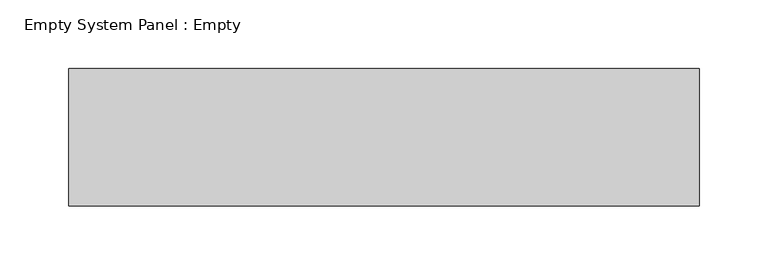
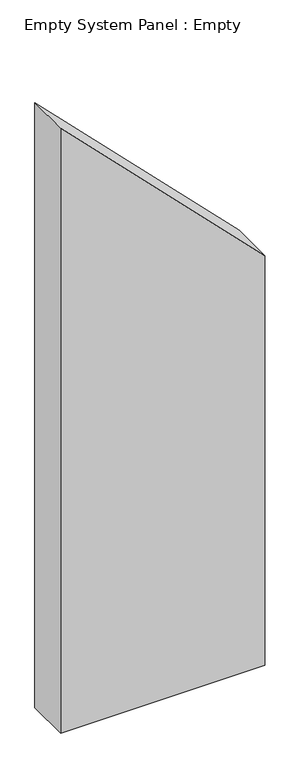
"""IFC4 building model written with IfcOpenShell, lengths in millimetres: plate geometry, Empty System Panel : Empty."""

from ifc_helpers import new_model, si_unit, frame, origin, place, context, project, spatial, polyline, outline, extrude, source, transform, mapped, element, save


def empty_system_panel_empty_6e2854e8(model_context):
    return source(origin(), model_context, "Body", "SweptSolid", [
        extrude(outline(polyline([(0.0, -229.6046705), (0.0, 229.6046705), (972.9263096, 229.6046705), (1437.2730186, -229.6046705), (0.0, -229.6046705)])), frame((0.0, -50.0, 0.0), z_axis=(0.0, 1.0, 0.0), x_axis=(0.0, 0.0, 1.0)), (0.0, 0.0, 1.0), 100.0),
    ])


if __name__ == "__main__":
    model = new_model("IFC4")
    model_context = context("Model", 3, world=origin())
    ifc_project = project(units=[si_unit("LENGTHUNIT", "METRE", prefix="MILLI")], contexts=[model_context])
    site = spatial("IfcSite", under=ifc_project)
    building = spatial("IfcBuilding", under=site)
    placement = place(None, origin())
    empty_system_panel_empty_shape = empty_system_panel_empty_6e2854e8(model_context)
    element("IfcPlate", 1, ObjectType="Empty System Panel : Empty", at=placement, inside=building, context=model_context, shape_type="MappedRepresentation", body=[
        mapped(empty_system_panel_empty_shape, transform((0.0, 0.0, 0.0), x_axis=(1.0, 0.0, 0.0), y_axis=(0.0, 1.0, 0.0), z_axis=(0.0, 0.0, 1.0))),
    ])
    save(model, "model.ifc")
